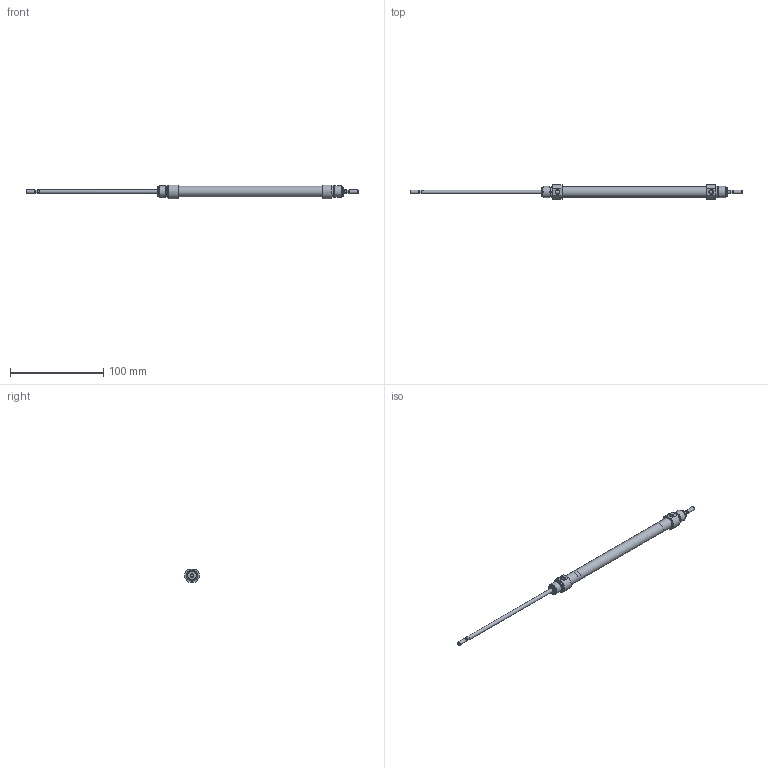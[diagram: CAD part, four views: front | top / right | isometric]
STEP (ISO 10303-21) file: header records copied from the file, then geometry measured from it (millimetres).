
FILE_DESCRIPTION( ( 'STEP AP203' ), '1' );
FILE_NAME( '//expscmdclustefs.cadenas.external/client_exchange/iodir/jobs/output/wkb68274547_no0/STEP/M101-010-0125-M__0__2_03.stp', ' ', ( ' ' ), ( ' ' ), 'PSStep 15.0.47', 'PARTsolutions', ' ' );
FILE_SCHEMA( ( 'CONFIG_CONTROL_DESIGN' ) );
Length unit declared in the file: millimetre
Products named in the file (3): M101-010-0125-M [0]; HI_M101-010-0125-M-[0]-z; HI_M101-010-0125-M-[0]-k
Assembly tree (2 placements, depth 2):
  M101-010-0125-M [0]
    HI_M101-010-0125-M-[0]-z
    HI_M101-010-0125-M-[0]-k
Bounding box: 356 x 15.77 x 14.87 mm (x, y, z)
Volume: 15469.9 mm3; surface area: 17784.8 mm2
Topology: 2 solids, 2 shells, 71 faces, 145 edges, 88 vertices
Faces by surface type: plane 32, cylinder 23, cone 14, torus 2
Full cylindrical faces by diameter (mm): 3.141 x2, 4 x6, 4.134 x2, 10 x2, 10.466 x4, 11.3 x1, 12 x4
Entity records: 1832 total; most frequent: CARTESIAN_POINT 352, DIRECTION 312, ORIENTED_EDGE 212, AXIS2_PLACEMENT_3D 140, EDGE_LOOP 120, EDGE_CURVE 106, FACE_OUTER_BOUND 94, VERTEX_POINT 82
